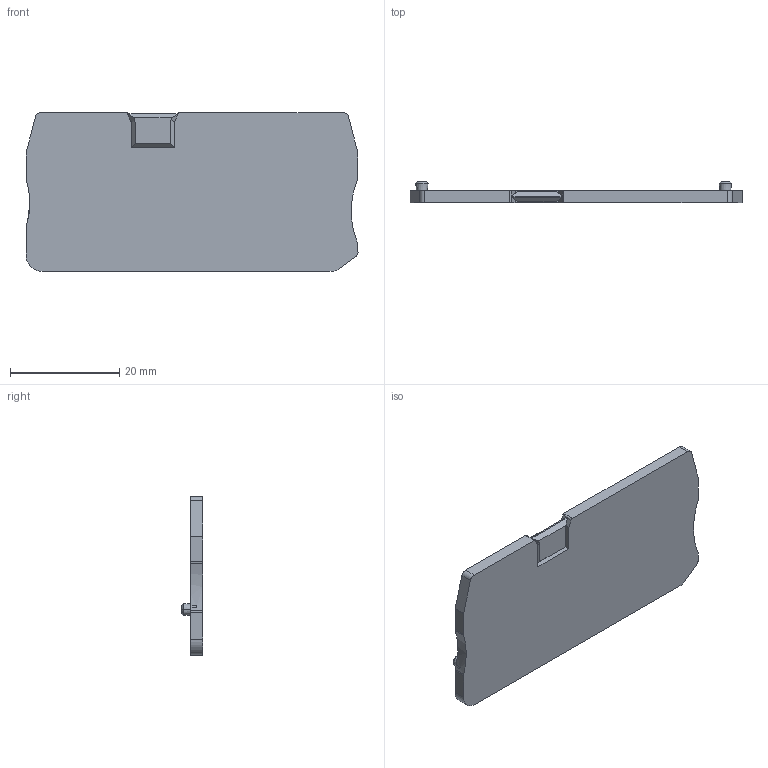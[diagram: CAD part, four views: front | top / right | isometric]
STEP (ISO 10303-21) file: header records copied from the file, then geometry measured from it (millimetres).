
FILE_DESCRIPTION( ('This file contains a STEP AP42 implementation' ,'as created by ZW3D STEP Interface translator.') ,'2;1' );
FILE_NAME( 'D-VPR4-HESI_.stp' ,'24 726.103538', (''), ('ZWCAD Software Co.'), 'Version 1.0', 'ZW3D to STEP translator', '' );
FILE_SCHEMA(('AUTOMOTIVE_DESIGN { 1 0 10303 214 1 1 1 1 }'));
Length unit declared in the file: millimetre
Products named in the file (2): 0; D-RPV4-HESI_3
Bounding box: 60.7 x 4 x 29.05 mm (x, y, z)
Volume: 3766.6 mm3; surface area: 3903.1 mm2
Topology: 1 solids, 1 shells, 80 faces, 198 edges, 124 vertices
Faces by surface type: plane 44, cylinder 20, cone 16
Entity records: 2473 total; most frequent: CARTESIAN_POINT 424, DIRECTION 419, ORIENTED_EDGE 396, EDGE_CURVE 198, AXIS2_PLACEMENT_3D 147, VECTOR 125, LINE 125, VERTEX_POINT 124
